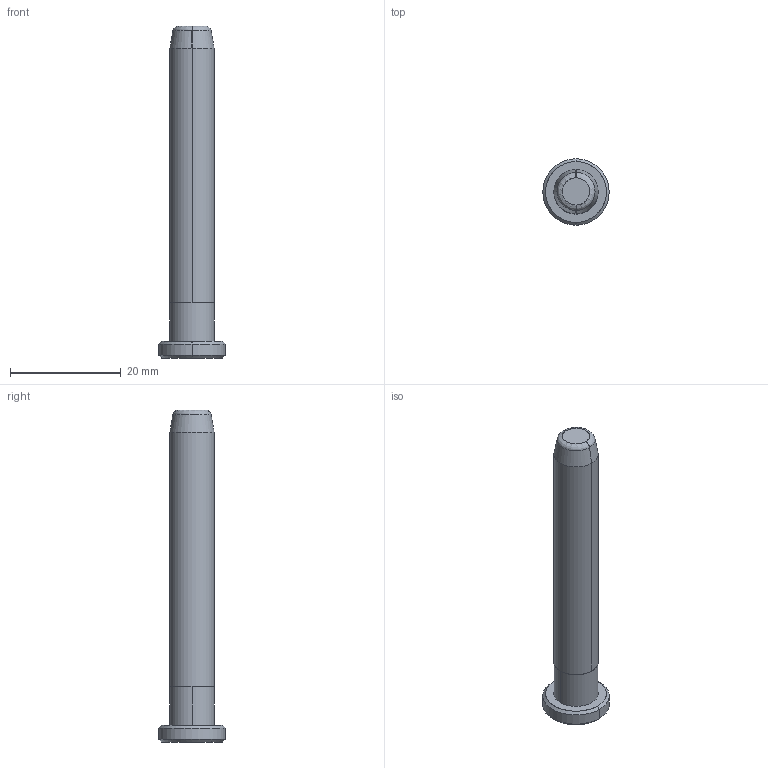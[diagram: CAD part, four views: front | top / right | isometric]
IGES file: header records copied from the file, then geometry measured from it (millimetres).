
Start section: START RECORD GO HERE.
Global section: file name: B80808060.igs; native system: DASSAULT SYSTEMES CATIA V5 R20 - www.3ds.com; preprocessor: CATIA Version 5 Release 20 ; author: Utente; organization: NB04-ASUS; date: 20200419.165713; units: millimetre
Bounding box: 12 x 12 x 60 mm (x, y, z)
Surface area: 1719.8 mm2 (no closed solid volume)
Topology: 0 solids, 0 shells, 20 faces, 80 edges, 80 vertices
Faces by surface type: revolution 16, plane 4
